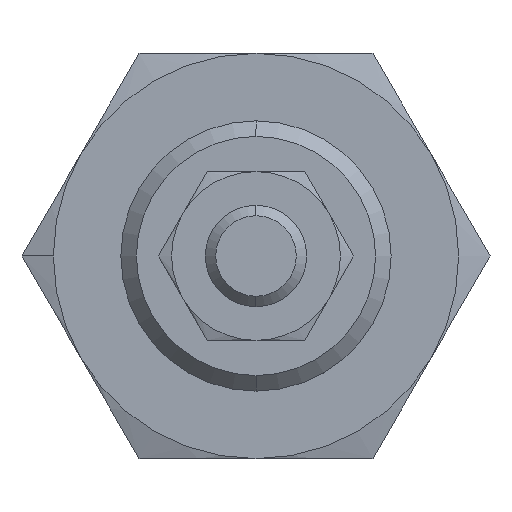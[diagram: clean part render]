
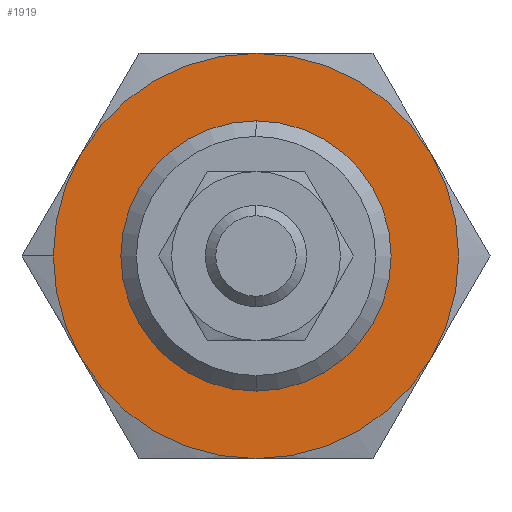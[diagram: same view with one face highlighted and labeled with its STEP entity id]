
A CAD part, left-side view. The second image highlights one B-rep face of the part: STEP entity #1919.
In plain terms, the highlighted planar face has unit normal (-1, 0, 0).
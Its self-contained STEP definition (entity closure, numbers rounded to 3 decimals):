
#78 = DIRECTION ( 'NONE',  ( 0., 1., 0. ) ) ;
#82 = ORIENTED_EDGE ( 'NONE', *, *, #468, .F. ) ;
#123 = CARTESIAN_POINT ( 'NONE',  ( -13.5, 10.392, -6. ) ) ;
#219 = ORIENTED_EDGE ( 'NONE', *, *, #2780, .F. ) ;
#237 = AXIS2_PLACEMENT_3D ( 'NONE', #3634, #4248, #3278 ) ;
#241 = DIRECTION ( 'NONE',  ( 1., 0., 0. ) ) ;
#255 = CIRCLE ( 'NONE', #3017, 12. ) ;
#272 = DIRECTION ( 'NONE',  ( 1., 0., 0. ) ) ;
#378 = CIRCLE ( 'NONE', #1693, 8. ) ;
#468 = EDGE_CURVE ( 'NONE', #1654, #477, #255, .T. ) ;
#477 = VERTEX_POINT ( 'NONE', #123 ) ;
#556 = CARTESIAN_POINT ( 'NONE',  ( -13.5, 0., 0. ) ) ;
#642 = VERTEX_POINT ( 'NONE', #1585 ) ;
#648 = DIRECTION ( 'NONE',  ( 0., 1., 0. ) ) ;
#665 = DIRECTION ( 'NONE',  ( 1., 0., 0. ) ) ;
#673 = CIRCLE ( 'NONE', #1767, 12. ) ;
#677 = CARTESIAN_POINT ( 'NONE',  ( -13.5, 12., 0. ) ) ;
#734 = FACE_OUTER_BOUND ( 'NONE', #3154, .T. ) ;
#920 = CARTESIAN_POINT ( 'NONE',  ( -13.5, 0., 0. ) ) ;
#936 = CIRCLE ( 'NONE', #1077, 12. ) ;
#1010 = EDGE_LOOP ( 'NONE', ( #1613, #4215 ) ) ;
#1020 = VERTEX_POINT ( 'NONE', #2006 ) ;
#1024 = CIRCLE ( 'NONE', #1229, 12. ) ;
#1039 = EDGE_CURVE ( 'NONE', #1980, #1654, #2085, .T. ) ;
#1046 = DIRECTION ( 'NONE',  ( 1., 0., 0. ) ) ;
#1048 = CARTESIAN_POINT ( 'NONE',  ( -13.5, 0., 0. ) ) ;
#1058 = CARTESIAN_POINT ( 'NONE',  ( -13.5, 0., 0. ) ) ;
#1077 = AXIS2_PLACEMENT_3D ( 'NONE', #1048, #1960, #648 ) ;
#1229 = AXIS2_PLACEMENT_3D ( 'NONE', #1058, #665, #3327 ) ;
#1350 = CARTESIAN_POINT ( 'NONE',  ( -13.5, -10.392, 6. ) ) ;
#1386 = ORIENTED_EDGE ( 'NONE', *, *, #2786, .F. ) ;
#1541 = VERTEX_POINT ( 'NONE', #677 ) ;
#1551 = EDGE_CURVE ( 'NONE', #477, #1541, #936, .T. ) ;
#1585 = CARTESIAN_POINT ( 'NONE',  ( -13.5, 0., 12. ) ) ;
#1613 = ORIENTED_EDGE ( 'NONE', *, *, #2095, .T. ) ;
#1639 = ORIENTED_EDGE ( 'NONE', *, *, #2947, .F. ) ;
#1654 = VERTEX_POINT ( 'NONE', #3429 ) ;
#1677 = PLANE ( 'NONE',  #2933 ) ;
#1693 = AXIS2_PLACEMENT_3D ( 'NONE', #1988, #3569, #3592 ) ;
#1723 = CARTESIAN_POINT ( 'NONE',  ( -13.5, -10.392, -6. ) ) ;
#1767 = AXIS2_PLACEMENT_3D ( 'NONE', #2900, #272, #3478 ) ;
#1793 = DIRECTION ( 'NONE',  ( 1., 0., 0. ) ) ;
#1919 = ADVANCED_FACE ( 'NONE', ( #734, #2326 ), #1677, .T. ) ;
#1956 = DIRECTION ( 'NONE',  ( 0., 1., 0. ) ) ;
#1960 = DIRECTION ( 'NONE',  ( 1., 0., 0. ) ) ;
#1980 = VERTEX_POINT ( 'NONE', #1723 ) ;
#1988 = CARTESIAN_POINT ( 'NONE',  ( -13.5, 0., 0. ) ) ;
#2006 = CARTESIAN_POINT ( 'NONE',  ( -13.5, -8., 0. ) ) ;
#2038 = AXIS2_PLACEMENT_3D ( 'NONE', #4003, #1046, #2347 ) ;
#2085 = CIRCLE ( 'NONE', #237, 12. ) ;
#2095 = EDGE_CURVE ( 'NONE', #1020, #3267, #4051, .T. ) ;
#2137 = VERTEX_POINT ( 'NONE', #1350 ) ;
#2143 = EDGE_CURVE ( 'NONE', #3267, #1020, #378, .T. ) ;
#2149 = DIRECTION ( 'NONE',  ( 0., 1., 0. ) ) ;
#2269 = DIRECTION ( 'NONE',  ( 1., 0., 0. ) ) ;
#2307 = AXIS2_PLACEMENT_3D ( 'NONE', #556, #241, #2149 ) ;
#2326 = FACE_BOUND ( 'NONE', #1010, .T. ) ;
#2347 = DIRECTION ( 'NONE',  ( 0., 1., 0. ) ) ;
#2537 = ORIENTED_EDGE ( 'NONE', *, *, #1039, .F. ) ;
#2780 = EDGE_CURVE ( 'NONE', #1541, #3816, #3841, .T. ) ;
#2786 = EDGE_CURVE ( 'NONE', #3816, #642, #673, .T. ) ;
#2900 = CARTESIAN_POINT ( 'NONE',  ( -13.5, 0., 0. ) ) ;
#2933 = AXIS2_PLACEMENT_3D ( 'NONE', #3603, #3653, #1956 ) ;
#2947 = EDGE_CURVE ( 'NONE', #2137, #1980, #3773, .T. ) ;
#3017 = AXIS2_PLACEMENT_3D ( 'NONE', #3434, #1793, #78 ) ;
#3059 = ORIENTED_EDGE ( 'NONE', *, *, #1551, .F. ) ;
#3154 = EDGE_LOOP ( 'NONE', ( #3059, #82, #2537, #1639, #4030, #1386, #219 ) ) ;
#3267 = VERTEX_POINT ( 'NONE', #4103 ) ;
#3278 = DIRECTION ( 'NONE',  ( 0., 1., 0. ) ) ;
#3327 = DIRECTION ( 'NONE',  ( 0., 1., 0. ) ) ;
#3390 = EDGE_CURVE ( 'NONE', #642, #2137, #1024, .T. ) ;
#3429 = CARTESIAN_POINT ( 'NONE',  ( -13.5, 0., -12. ) ) ;
#3434 = CARTESIAN_POINT ( 'NONE',  ( -13.5, 0., 0. ) ) ;
#3478 = DIRECTION ( 'NONE',  ( 0., 1., 0. ) ) ;
#3569 = DIRECTION ( 'NONE',  ( 1., 0., 0. ) ) ;
#3592 = DIRECTION ( 'NONE',  ( 0., 1., 0. ) ) ;
#3595 = DIRECTION ( 'NONE',  ( 0., 1., 0. ) ) ;
#3603 = CARTESIAN_POINT ( 'NONE',  ( -13.5, 12., 0. ) ) ;
#3633 = AXIS2_PLACEMENT_3D ( 'NONE', #920, #2269, #3595 ) ;
#3634 = CARTESIAN_POINT ( 'NONE',  ( -13.5, 0., 0. ) ) ;
#3653 = DIRECTION ( 'NONE',  ( -1., 0., 0. ) ) ;
#3773 = CIRCLE ( 'NONE', #3633, 12. ) ;
#3816 = VERTEX_POINT ( 'NONE', #3846 ) ;
#3841 = CIRCLE ( 'NONE', #2038, 12. ) ;
#3846 = CARTESIAN_POINT ( 'NONE',  ( -13.5, 10.392, 6. ) ) ;
#4003 = CARTESIAN_POINT ( 'NONE',  ( -13.5, 0., 0. ) ) ;
#4030 = ORIENTED_EDGE ( 'NONE', *, *, #3390, .F. ) ;
#4051 = CIRCLE ( 'NONE', #2307, 8. ) ;
#4103 = CARTESIAN_POINT ( 'NONE',  ( -13.5, 8., 0. ) ) ;
#4215 = ORIENTED_EDGE ( 'NONE', *, *, #2143, .T. ) ;
#4248 = DIRECTION ( 'NONE',  ( 1., 0., 0. ) ) ;
